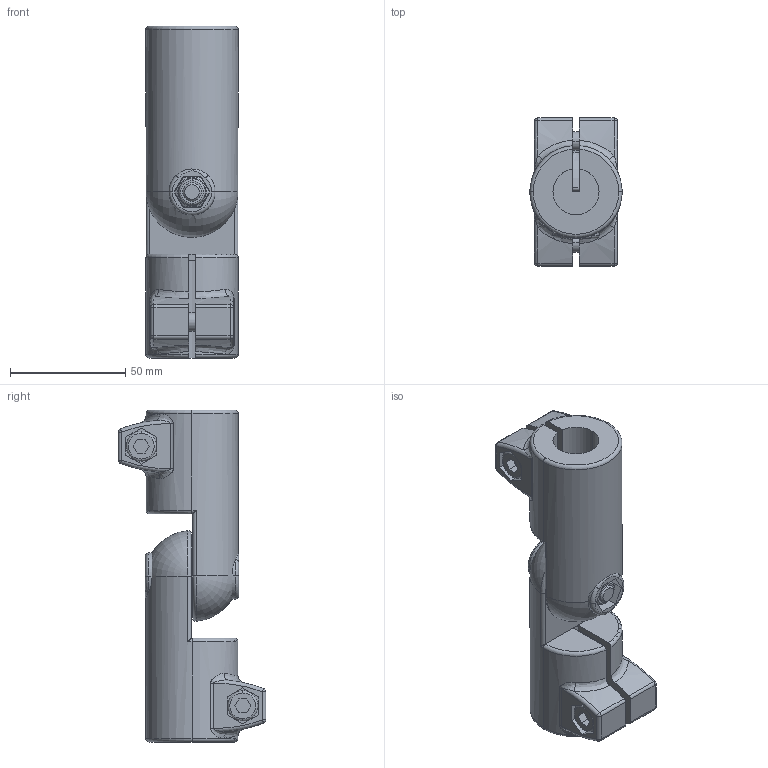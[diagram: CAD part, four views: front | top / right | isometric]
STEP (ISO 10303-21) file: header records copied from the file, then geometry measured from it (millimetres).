
FILE_DESCRIPTION (( 'STEP AP214' ), '1' );
FILE_NAME ('286-B20-B30-S-2-SW.step', '2021-12-02T12:15:53', ( '' ), ( '' ), 'SwSTEP 2.0', 'SolidWorks 2019', '' );
FILE_SCHEMA (( 'AUTOMOTIVE_DESIGN' ));
Length unit declared in the file: millimetre
Products named in the file (3): WB276^WB286_B20-IV-2-SW; WB276_1^WB286_B30-MZ-2-SW; 286-B20-B30-S-2-SW
Assembly tree (2 placements, depth 2):
  286-B20-B30-S-2-SW
    WB276^WB286_B20-IV-2-SW
    WB276_1^WB286_B30-MZ-2-SW
Bounding box: 40 x 64 x 144 mm (x, y, z)
Volume: 132687 mm3; surface area: 43480.3 mm2
Topology: 2 solids, 2 shells, 419 faces, 1016 edges, 622 vertices
Faces by surface type: plane 209, cylinder 108, torus 50, cone 24, bspline 20, sphere 8
Entity records: 15928 total; most frequent: CARTESIAN_POINT 5028, ORIENTED_EDGE 2016, DIRECTION 1968, EDGE_CURVE 1008, AXIS2_PLACEMENT_3D 764, VERTEX_POINT 622, EDGE_LOOP 454, VECTOR 440
